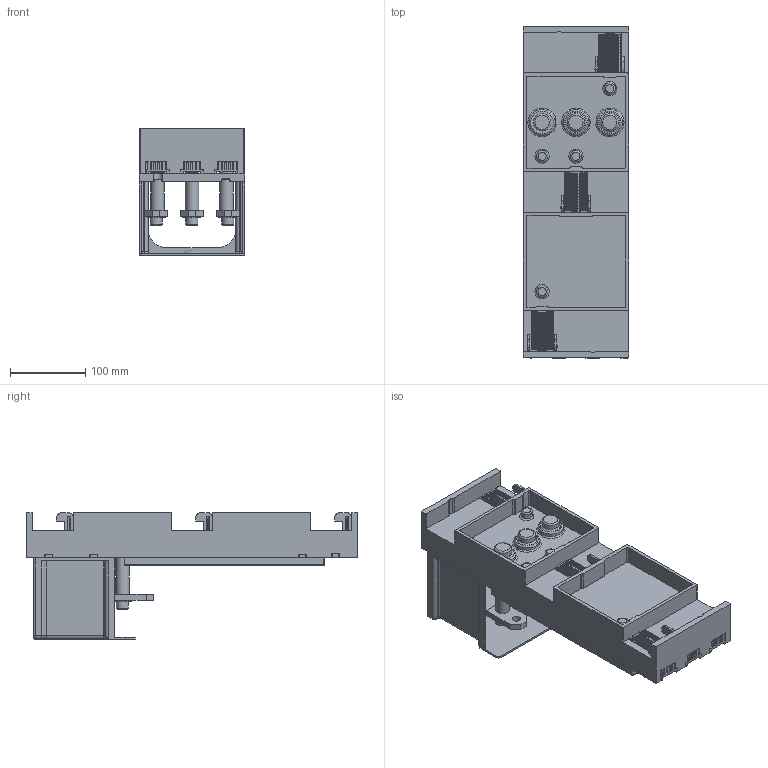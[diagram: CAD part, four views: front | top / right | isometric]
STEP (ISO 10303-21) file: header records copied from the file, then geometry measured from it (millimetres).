
FILE_DESCRIPTION (( 'STEP AP203' ), '1' );
FILE_NAME ('55050.STEP', '2021-09-01T05:49:06', ( '' ), ( '' ), 'SwSTEP 2.0', 'SolidWorks 2017', '' );
FILE_SCHEMA (( 'CONFIG_CONTROL_DESIGN' ));
Products named in the file (2): 55050
Bounding box: 140.2 x 441.5 x 168 mm (x, y, z)
Volume: 2638838.9 mm3; surface area: 547321.5 mm2
Topology: 11 solids, 67 shells, 3562 faces, 9394 edges, 6134 vertices
Faces by surface type: plane 2534, cylinder 584, bspline 295, cone 78, torus 59, sphere 12
Full cylindrical faces by diameter (mm): 3.2 x11, 3.5 x2, 4.2 x4, 4.5 x2, 5 x4, 5.2 x4, 5.5 x14, 8.376 x1, 8.5 x5, 9 x12, 10 x8, 10.5 x3, 11 x7, 11.5 x6, 12 x3, 13 x3, 14 x8, 15 x4, 16 x6, 18 x3, 23 x4, 24 x6, 34 x3
Entity records: 138923 total; most frequent: CARTESIAN_POINT 54004, ORIENTED_EDGE 18098, DIRECTION 15824, EDGE_CURVE 9049, LINE 6856, VECTOR 6856, VERTEX_POINT 6063, AXIS2_PLACEMENT_3D 4484
